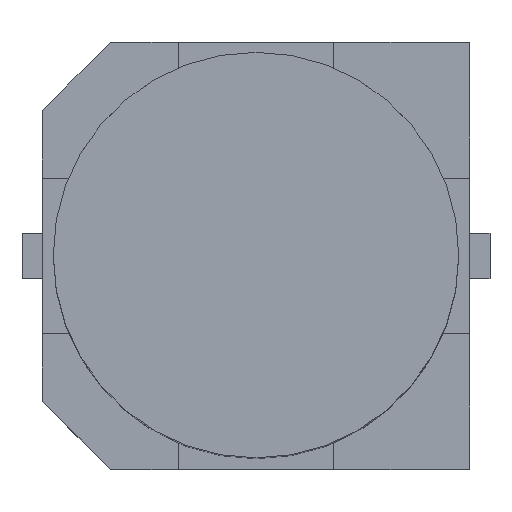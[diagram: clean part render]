
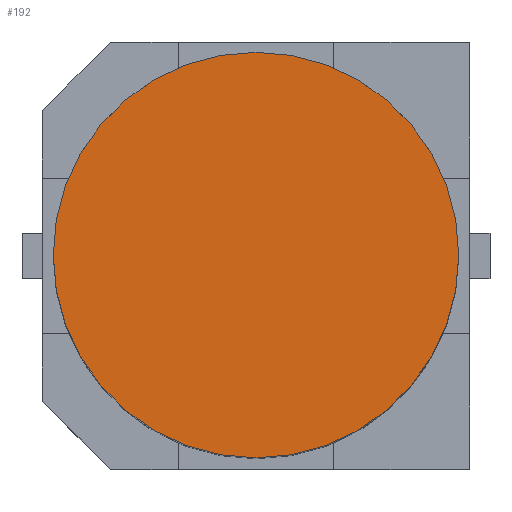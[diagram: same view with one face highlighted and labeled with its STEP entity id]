
A CAD part, top view. The second image highlights one B-rep face of the part: STEP entity #192.
In plain terms, the highlighted planar face has unit normal (0, 0, 1).
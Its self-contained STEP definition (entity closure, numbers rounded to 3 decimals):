
#192=ADVANCED_FACE($,(#198),#194,.T.);
#194=PLANE($,#219);
#198=FACE_OUTER_BOUND($,#202,.T.);
#202=EDGE_LOOP($,(#212));
#203=CIRCLE($,#216,4.896);
#205=VERTEX_POINT('',#234);
#207=EDGE_CURVE($,#205,#205,#203,.T.);
#212=ORIENTED_EDGE($,*,*,#207,.T.);
#216=AXIS2_PLACEMENT_3D($,#235,#224,#225);
#219=AXIS2_PLACEMENT_3D($,#239,#230,#231);
#224=DIRECTION('',(0.,0.,1.));
#225=DIRECTION('',(1.,0.,0.));
#230=DIRECTION('',(0.,0.,1.));
#231=DIRECTION('',(0.,1.,0.));
#234=CARTESIAN_POINT('',(-4.896,0.0,14.049));
#235=CARTESIAN_POINT('',(0.0,0.0,14.049));
#239=CARTESIAN_POINT('',(0.0,0.0,14.049));
